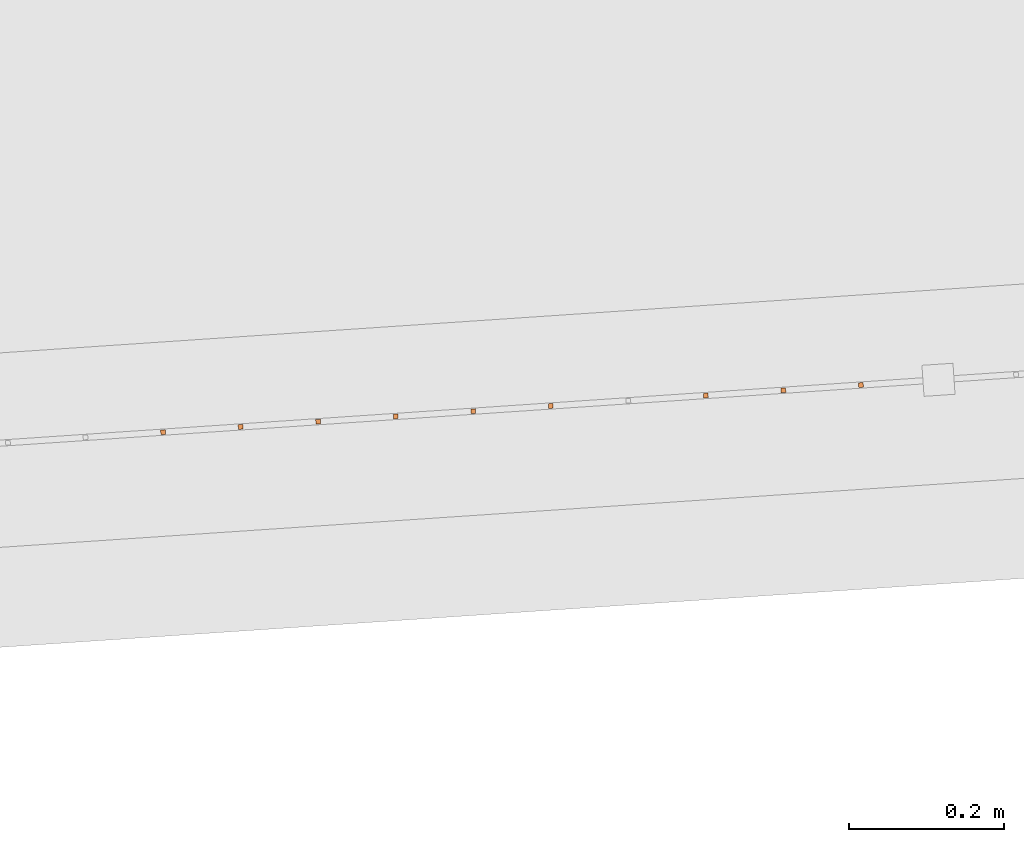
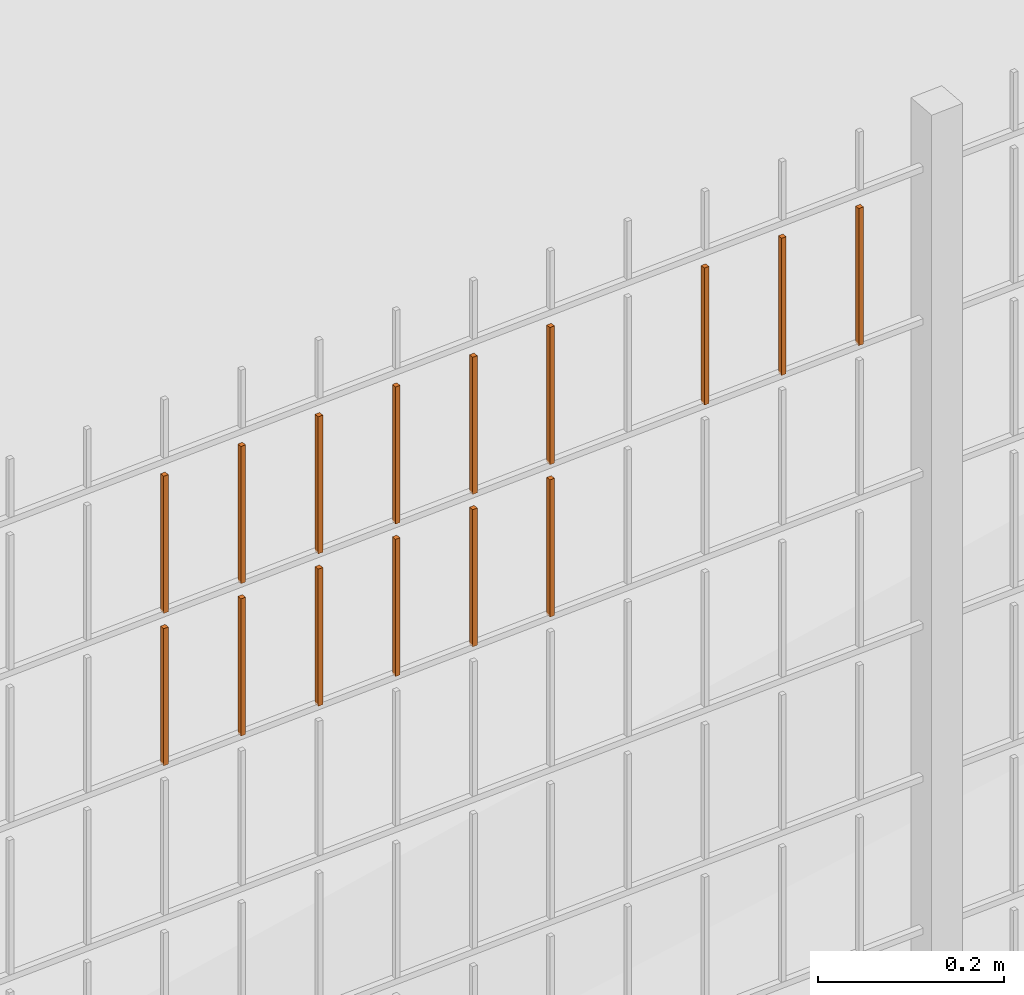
# One storey, part 96 of 1809: 15 proxies, 1 element without a shape of its own.
"""IFC2X3 building model written with IfcOpenShell, lengths in millimetres."""

from ifc_helpers import new_model, entity, si_unit, converted_unit, derived_unit, money_unit, direction, frame, origin_with_axes, place, context, subcontext, project, spatial, faceted_brep, source, transform, mapped, material, type_object, element, aggregate, save


model = new_model("IFC2X3")

# Units and contexts
model_context = context("Model", 3, precision=0.01, world=origin_with_axes(), true_north=direction((0.0, 1.0)))
body_context = subcontext(model_context, "Body", "Model", "MODEL_VIEW")
ifc_project = project(units=[si_unit("LENGTHUNIT", "METRE", prefix="MILLI"), si_unit("AREAUNIT", "SQUARE_METRE"), si_unit("VOLUMEUNIT", "CUBIC_METRE"), converted_unit("PLANEANGLEUNIT", "DEGREE", entity("IfcPlaneAngleMeasure", 0.0174532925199), si_unit("PLANEANGLEUNIT", "RADIAN"), dimensions=[0, 0, 0, 0, 0, 0, 0]), si_unit("SOLIDANGLEUNIT", "STERADIAN"), money_unit("EUR"), converted_unit("TIMEUNIT", "Year", entity("IfcTimeMeasure", 31556926.0), si_unit("TIMEUNIT", "SECOND"), dimensions=[0, 0, 1, 0, 0, 0, 0]), si_unit("MASSUNIT", "GRAM", prefix="KILO"), si_unit("THERMODYNAMICTEMPERATUREUNIT", "DEGREE_CELSIUS"), si_unit("LUMINOUSINTENSITYUNIT", "LUMEN"), si_unit("ENERGYUNIT", "JOULE", prefix="MEGA"), derived_unit("THERMALCONDUCTANCEUNIT", [(si_unit("POWERUNIT", "WATT"), 1), (si_unit("LENGTHUNIT", "METRE"), -1), (si_unit("THERMODYNAMICTEMPERATUREUNIT", "KELVIN"), -1)]), derived_unit("SPECIFICHEATCAPACITYUNIT", [(si_unit("ENERGYUNIT", "JOULE"), 1), (si_unit("MASSUNIT", "GRAM", prefix="KILO"), -1), (si_unit("THERMODYNAMICTEMPERATUREUNIT", "KELVIN"), -1)]), derived_unit("MASSDENSITYUNIT", [(si_unit("MASSUNIT", "GRAM", prefix="KILO"), 1), (si_unit("VOLUMEUNIT", "CUBIC_METRE"), -1)])], contexts=[model_context])

# Site, building, storey
site_placement = place(None, origin_with_axes())
site = spatial("IfcSite", under=ifc_project, at=site_placement, Name="Politse- ja Piirivalveameti ning Päästeameti ühishoone", CompositionType="ELEMENT")
building_placement = place(site_placement, origin_with_axes())
building = spatial("IfcBuilding", under=site, at=building_placement, Name="Politse- ja Piirivalveameti ning Päästeameti ühishoone", CompositionType="ELEMENT")
storey_placement = place(building_placement, origin_with_axes())
storey = spatial("IfcBuildingStorey", under=building, at=storey_placement, Name="Esimene korrus", CompositionType="ELEMENT", Elevation=0.0)

# Proxies
building_element_proxy_type_1 = type_object("IfcBuildingElementProxyType", Name="Railing Type", PredefinedType="NOTDEFINED")
proxy_1_placement = place(storey_placement, frame((89252.001212, -29183.4766571, 203.661247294), z_axis=(0.0, 0.0, 1.0), x_axis=(1.0, 0.0, 0.0)))
proxy_1 = element("IfcBuildingElementProxy", 1, at=proxy_1_placement, inside=storey, type_object=building_element_proxy_type_1, Name="PIIRDEAED")
ifc_material = material(Name="ET-03_Raud")
building_element_proxy_type_2 = type_object("IfcBuildingElementProxyType", Name="IfcBuildingElementProxy", PredefinedType="NOTDEFINED")
shared_shape_1 = source(origin_with_axes(), body_context, "Body", "Brep", [
    faceted_brep([(3.0, 3.0, -0.000752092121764), (-3.0, 3.0, -0.000752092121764), (-3.0, 3.0, 179.99926046), (3.0, 3.0, 179.99926046), (3.0, -3.0, 0.000752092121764), (-3.0, -3.0, 0.000752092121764), (-3.0, -3.0, 180.000764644), (3.0, -3.0, 180.000764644)], [[[0, 1, 2, 3]], [[0, 4, 5, 1]], [[1, 5, 6, 2]], [[3, 2, 6, 7]], [[4, 0, 3, 7]], [[5, 4, 7, 6]]]),
])
proxy_2_placement = place(proxy_1_placement, frame((-98103.1452171, -23924.2719931, 1602.58414305), z_axis=(0.0, 0.0, 1.0), x_axis=(1.0, 0.0, 0.0)))
proxy_2 = element("IfcBuildingElementProxy", 2, at=proxy_2_placement, type_object=building_element_proxy_type_2, material=ifc_material, Name="BALUSTER - 001", context=body_context, shape_type="MappedRepresentation", body=[
    mapped(shared_shape_1, transform((0.0, 0.0, 0.0), x_axis=(-0.0673926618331, 0.997726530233, 0.0), y_axis=(-0.997726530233, -0.0673926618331, 0.0), z_axis=(0.0, 0.0, 1.0))),
])
shared_shape_2 = source(origin_with_axes(), body_context, "Body", "Brep", [
    faceted_brep([(3.0, 3.0, -0.000752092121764), (-3.0, 3.0, -0.000752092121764), (-3.0, 3.0, 179.99926046), (3.0, 3.0, 179.99926046), (3.0, -3.0, 0.000752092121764), (-3.0, -3.0, 0.000752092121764), (-3.0, -3.0, 180.000764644), (3.0, -3.0, 180.000764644)], [[[0, 1, 2, 3]], [[0, 4, 5, 1]], [[1, 5, 6, 2]], [[3, 2, 6, 7]], [[4, 0, 3, 7]], [[5, 4, 7, 6]]]),
])
proxy_3_placement = place(proxy_1_placement, frame((-97604.281952, -23890.5756622, 1802.70949174), z_axis=(0.0, 0.0, 1.0), x_axis=(1.0, 0.0, 0.0)))
proxy_3 = element("IfcBuildingElementProxy", 3, at=proxy_3_placement, type_object=building_element_proxy_type_2, material=ifc_material, Name="BALUSTER - 001", context=body_context, shape_type="MappedRepresentation", body=[
    mapped(shared_shape_2, transform((0.0, 0.0, 0.0), x_axis=(-0.0673926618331, 0.997726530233, 0.0), y_axis=(-0.997726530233, -0.0673926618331, 0.0), z_axis=(0.0, 0.0, 1.0))),
])
proxy_4_placement = place(proxy_1_placement, frame((-98103.1452171, -23924.2719931, 1802.58414305), z_axis=(0.0, 0.0, 1.0), x_axis=(1.0, 0.0, 0.0)))
proxy_4 = element("IfcBuildingElementProxy", 4, at=proxy_4_placement, type_object=building_element_proxy_type_2, material=ifc_material, Name="BALUSTER - 001", context=body_context, shape_type="MappedRepresentation", body=[
    mapped(shared_shape_2, transform((0.0, 0.0, 0.0), x_axis=(-0.0673926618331, 0.997726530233, 0.0), y_axis=(-0.997726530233, -0.0673926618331, 0.0), z_axis=(0.0, 0.0, 1.0))),
])
shared_shape_3 = source(origin_with_axes(), body_context, "Body", "Brep", [
    faceted_brep([(3.0, 3.0, -0.000752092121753), (-3.0, 3.0, -0.000752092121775), (-3.0, 3.0, 179.99926046), (3.0, 3.0, 179.99926046), (3.0, -3.0, 0.000752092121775), (-3.0, -3.0, 0.000752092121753), (-3.0, -3.0, 180.000764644), (3.0, -3.0, 180.000764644)], [[[0, 1, 2, 3]], [[0, 4, 5, 1]], [[1, 5, 6, 2]], [[3, 2, 6, 7]], [[4, 0, 3, 7]], [[5, 4, 7, 6]]]),
])
proxy_5_placement = place(proxy_1_placement, frame((-97704.054605, -23897.3149284, 1802.684422), z_axis=(0.0, 0.0, 1.0), x_axis=(1.0, 0.0, 0.0)))
proxy_5 = element("IfcBuildingElementProxy", 5, at=proxy_5_placement, type_object=building_element_proxy_type_2, material=ifc_material, Name="BALUSTER - 001", context=body_context, shape_type="MappedRepresentation", body=[
    mapped(shared_shape_3, transform((0.0, 0.0, 0.0), x_axis=(-0.0673926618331, 0.997726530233, 0.0), y_axis=(-0.997726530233, -0.0673926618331, 0.0), z_axis=(0.0, 0.0, 1.0))),
])
shared_shape_4 = source(origin_with_axes(), body_context, "Body", "Brep", [
    faceted_brep([(3.0, 3.0, -0.000752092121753), (-3.0, 3.0, -0.000752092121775), (-3.0, 3.0, 179.99926046), (3.0, 3.0, 179.99926046), (3.0, -3.0, 0.000752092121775), (-3.0, -3.0, 0.000752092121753), (-3.0, -3.0, 180.000764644), (3.0, -3.0, 180.000764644)], [[[0, 1, 2, 3]], [[0, 4, 5, 1]], [[1, 5, 6, 2]], [[3, 2, 6, 7]], [[4, 0, 3, 7]], [[5, 4, 7, 6]]]),
])
proxy_6_placement = place(proxy_1_placement, frame((-97903.5999111, -23910.7934607, 1602.63428252), z_axis=(0.0, 0.0, 1.0), x_axis=(1.0, 0.0, 0.0)))
proxy_6 = element("IfcBuildingElementProxy", 6, at=proxy_6_placement, type_object=building_element_proxy_type_2, material=ifc_material, Name="BALUSTER - 001", context=body_context, shape_type="MappedRepresentation", body=[
    mapped(shared_shape_4, transform((0.0, 0.0, 0.0), x_axis=(-0.0673926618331, 0.997726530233, 0.0), y_axis=(-0.997726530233, -0.0673926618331, 0.0), z_axis=(0.0, 0.0, 1.0))),
])
shared_shape_5 = source(origin_with_axes(), body_context, "Body", "Brep", [
    faceted_brep([(3.0, 3.0, -0.000752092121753), (-3.0, 3.0, -0.000752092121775), (-3.0, 3.0, 179.99926046), (3.0, 3.0, 179.99926046), (3.0, -3.0, 0.000752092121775), (-3.0, -3.0, 0.000752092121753), (-3.0, -3.0, 180.000764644), (3.0, -3.0, 180.000764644)], [[[0, 1, 2, 3]], [[0, 4, 5, 1]], [[1, 5, 6, 2]], [[3, 2, 6, 7]], [[4, 0, 3, 7]], [[5, 4, 7, 6]]]),
])
proxy_7_placement = place(proxy_1_placement, frame((-97803.827258, -23904.0541946, 1602.65935226), z_axis=(0.0, 0.0, 1.0), x_axis=(1.0, 0.0, 0.0)))
proxy_7 = element("IfcBuildingElementProxy", 7, at=proxy_7_placement, type_object=building_element_proxy_type_2, material=ifc_material, Name="BALUSTER - 001", context=body_context, shape_type="MappedRepresentation", body=[
    mapped(shared_shape_5, transform((0.0, 0.0, 0.0), x_axis=(-0.0673926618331, 0.997726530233, 0.0), y_axis=(-0.997726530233, -0.0673926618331, 0.0), z_axis=(0.0, 0.0, 1.0))),
])
shared_shape_6 = source(origin_with_axes(), body_context, "Body", "Brep", [
    faceted_brep([(3.0, 3.0, -0.000752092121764), (-3.0, 3.0, -0.000752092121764), (-3.0, 3.0, 179.99926046), (3.0, 3.0, 179.99926046), (3.0, -3.0, 0.000752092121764), (-3.0, -3.0, 0.000752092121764), (-3.0, -3.0, 180.000764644), (3.0, -3.0, 180.000764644)], [[[0, 1, 2, 3]], [[0, 4, 5, 1]], [[1, 5, 6, 2]], [[3, 2, 6, 7]], [[4, 0, 3, 7]], [[5, 4, 7, 6]]]),
])
proxy_8_placement = place(proxy_1_placement, frame((-98003.3725641, -23917.5327269, 1602.60921279), z_axis=(0.0, 0.0, 1.0), x_axis=(1.0, 0.0, 0.0)))
proxy_8 = element("IfcBuildingElementProxy", 8, at=proxy_8_placement, type_object=building_element_proxy_type_2, material=ifc_material, Name="BALUSTER - 001", context=body_context, shape_type="MappedRepresentation", body=[
    mapped(shared_shape_6, transform((0.0, 0.0, 0.0), x_axis=(-0.0673926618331, 0.997726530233, 0.0), y_axis=(-0.997726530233, -0.0673926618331, 0.0), z_axis=(0.0, 0.0, 1.0))),
])
shared_shape_7 = source(origin_with_axes(), body_context, "Body", "Brep", [
    faceted_brep([(3.0, 3.0, -0.000752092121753), (-3.0, 3.0, -0.000752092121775), (-3.0, 3.0, 179.99926046), (3.0, 3.0, 179.99926046), (3.0, -3.0, 0.000752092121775), (-3.0, -3.0, 0.000752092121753), (-3.0, -3.0, 180.000764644), (3.0, -3.0, 180.000764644)], [[[0, 1, 2, 3]], [[0, 4, 5, 1]], [[1, 5, 6, 2]], [[3, 2, 6, 7]], [[4, 0, 3, 7]], [[5, 4, 7, 6]]]),
])
proxy_9_placement = place(proxy_1_placement, frame((-97903.5999111, -23910.7934607, 1802.63428252), z_axis=(0.0, 0.0, 1.0), x_axis=(1.0, 0.0, 0.0)))
proxy_9 = element("IfcBuildingElementProxy", 9, at=proxy_9_placement, type_object=building_element_proxy_type_2, material=ifc_material, Name="BALUSTER - 001", context=body_context, shape_type="MappedRepresentation", body=[
    mapped(shared_shape_7, transform((0.0, 0.0, 0.0), x_axis=(-0.0673926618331, 0.997726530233, 0.0), y_axis=(-0.997726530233, -0.0673926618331, 0.0), z_axis=(0.0, 0.0, 1.0))),
])
shared_shape_8 = source(origin_with_axes(), body_context, "Body", "Brep", [
    faceted_brep([(3.0, 3.0, -0.000752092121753), (-3.0, 3.0, -0.000752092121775), (-3.0, 3.0, 179.99926046), (3.0, 3.0, 179.99926046), (3.0, -3.0, 0.000752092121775), (-3.0, -3.0, 0.000752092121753), (-3.0, -3.0, 180.000764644), (3.0, -3.0, 180.000764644)], [[[0, 1, 2, 3]], [[0, 4, 5, 1]], [[1, 5, 6, 2]], [[3, 2, 6, 7]], [[4, 0, 3, 7]], [[5, 4, 7, 6]]]),
])
proxy_10_placement = place(proxy_1_placement, frame((-97304.9639929, -23870.3578636, 1802.78470095), z_axis=(0.0, 0.0, 1.0), x_axis=(1.0, 0.0, 0.0)))
proxy_10 = element("IfcBuildingElementProxy", 10, at=proxy_10_placement, type_object=building_element_proxy_type_2, material=ifc_material, Name="BALUSTER - 001", context=body_context, shape_type="MappedRepresentation", body=[
    mapped(shared_shape_8, transform((0.0, 0.0, 0.0), x_axis=(-0.0673926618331, 0.997726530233, 0.0), y_axis=(-0.997726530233, -0.0673926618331, 0.0), z_axis=(0.0, 0.0, 1.0))),
])
proxy_11_placement = place(proxy_1_placement, frame((-97803.827258, -23904.0541946, 1802.65935226), z_axis=(0.0, 0.0, 1.0), x_axis=(1.0, 0.0, 0.0)))
proxy_11 = element("IfcBuildingElementProxy", 11, at=proxy_11_placement, type_object=building_element_proxy_type_2, material=ifc_material, Name="BALUSTER - 001", context=body_context, shape_type="MappedRepresentation", body=[
    mapped(shared_shape_8, transform((0.0, 0.0, 0.0), x_axis=(-0.0673926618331, 0.997726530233, 0.0), y_axis=(-0.997726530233, -0.0673926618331, 0.0), z_axis=(0.0, 0.0, 1.0))),
])
shared_shape_9 = source(origin_with_axes(), body_context, "Body", "Brep", [
    faceted_brep([(3.0, 3.0, -0.000752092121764), (-3.0, 3.0, -0.000752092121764), (-3.0, 3.0, 179.99926046), (3.0, 3.0, 179.99926046), (3.0, -3.0, 0.000752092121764), (-3.0, -3.0, 0.000752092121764), (-3.0, -3.0, 180.000764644), (3.0, -3.0, 180.000764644)], [[[0, 1, 2, 3]], [[0, 4, 5, 1]], [[1, 5, 6, 2]], [[3, 2, 6, 7]], [[4, 0, 3, 7]], [[5, 4, 7, 6]]]),
])
proxy_12_placement = place(proxy_1_placement, frame((-97404.7366459, -23877.0971298, 1802.75963121), z_axis=(0.0, 0.0, 1.0), x_axis=(1.0, 0.0, 0.0)))
proxy_12 = element("IfcBuildingElementProxy", 12, at=proxy_12_placement, type_object=building_element_proxy_type_2, material=ifc_material, Name="BALUSTER - 001", context=body_context, shape_type="MappedRepresentation", body=[
    mapped(shared_shape_9, transform((0.0, 0.0, 0.0), x_axis=(-0.0673926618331, 0.997726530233, 0.0), y_axis=(-0.997726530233, -0.0673926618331, 0.0), z_axis=(0.0, 0.0, 1.0))),
])
proxy_13_placement = place(proxy_1_placement, frame((-98003.3725641, -23917.5327269, 1802.60921279), z_axis=(0.0, 0.0, 1.0), x_axis=(1.0, 0.0, 0.0)))
proxy_13 = element("IfcBuildingElementProxy", 13, at=proxy_13_placement, type_object=building_element_proxy_type_2, material=ifc_material, Name="BALUSTER - 001", context=body_context, shape_type="MappedRepresentation", body=[
    mapped(shared_shape_9, transform((0.0, 0.0, 0.0), x_axis=(-0.0673926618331, 0.997726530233, 0.0), y_axis=(-0.997726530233, -0.0673926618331, 0.0), z_axis=(0.0, 0.0, 1.0))),
])
shared_shape_10 = source(origin_with_axes(), body_context, "Body", "Brep", [
    faceted_brep([(3.0, 3.0, -0.000752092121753), (-3.0, 3.0, -0.000752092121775), (-3.0, 3.0, 179.99926046), (3.0, 3.0, 179.99926046), (3.0, -3.0, 0.000752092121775), (-3.0, -3.0, 0.000752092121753), (-3.0, -3.0, 180.000764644), (3.0, -3.0, 180.000764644)], [[[0, 1, 2, 3]], [[0, 4, 5, 1]], [[1, 5, 6, 2]], [[3, 2, 6, 7]], [[4, 0, 3, 7]], [[5, 4, 7, 6]]]),
])
proxy_14_placement = place(proxy_1_placement, frame((-97704.054605, -23897.3149284, 1602.684422), z_axis=(0.0, 0.0, 1.0), x_axis=(1.0, 0.0, 0.0)))
proxy_14 = element("IfcBuildingElementProxy", 14, at=proxy_14_placement, type_object=building_element_proxy_type_2, material=ifc_material, Name="BALUSTER - 001", context=body_context, shape_type="MappedRepresentation", body=[
    mapped(shared_shape_10, transform((0.0, 0.0, 0.0), x_axis=(-0.0673926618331, 0.997726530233, 0.0), y_axis=(-0.997726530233, -0.0673926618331, 0.0), z_axis=(0.0, 0.0, 1.0))),
])
shared_shape_11 = source(origin_with_axes(), body_context, "Body", "Brep", [
    faceted_brep([(3.0, 3.0, -0.000752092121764), (-3.0, 3.0, -0.000752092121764), (-3.0, 3.0, 179.99926046), (3.0, 3.0, 179.99926046), (3.0, -3.0, 0.000752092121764), (-3.0, -3.0, 0.000752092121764), (-3.0, -3.0, 180.000764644), (3.0, -3.0, 180.000764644)], [[[0, 1, 2, 3]], [[0, 4, 5, 1]], [[1, 5, 6, 2]], [[3, 2, 6, 7]], [[4, 0, 3, 7]], [[5, 4, 7, 6]]]),
])
proxy_15_placement = place(proxy_1_placement, frame((-97604.281952, -23890.5756622, 1602.70949174), z_axis=(0.0, 0.0, 1.0), x_axis=(1.0, 0.0, 0.0)))
proxy_15 = element("IfcBuildingElementProxy", 15, at=proxy_15_placement, type_object=building_element_proxy_type_2, material=ifc_material, Name="BALUSTER - 001", context=body_context, shape_type="MappedRepresentation", body=[
    mapped(shared_shape_11, transform((0.0, 0.0, 0.0), x_axis=(-0.0673926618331, 0.997726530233, 0.0), y_axis=(-0.997726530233, -0.0673926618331, 0.0), z_axis=(0.0, 0.0, 1.0))),
])
shared_shape_12 = source(origin_with_axes(), body_context, "Body", "Brep", [
    faceted_brep([(3.0, 3.0, -0.000752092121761), (-3.0, 3.0, -0.000752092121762), (-3.0, 3.0, 179.99926046), (3.0, 3.0, 179.99926046), (3.0, -3.0, 0.000752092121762), (-3.0, -3.0, 0.000752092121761), (-3.0, -3.0, 180.000764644), (3.0, -3.0, 180.000764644)], [[[0, 1, 2, 3]], [[0, 4, 5, 1]], [[1, 5, 6, 2]], [[3, 2, 6, 7]], [[4, 0, 3, 7]], [[5, 4, 7, 6]]]),
])
proxy_16_placement = place(proxy_1_placement, frame((-97205.1913399, -23863.6185975, 1802.80977069), z_axis=(0.0, 0.0, 1.0), x_axis=(1.0, 0.0, 0.0)))
proxy_16 = element("IfcBuildingElementProxy", 16, at=proxy_16_placement, type_object=building_element_proxy_type_2, material=ifc_material, Name="BALUSTER - 001", context=body_context, shape_type="MappedRepresentation", body=[
    mapped(shared_shape_12, transform((0.0, 0.0, 0.0), x_axis=(-0.0673926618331, 0.997726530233, 0.0), y_axis=(-0.997726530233, -0.0673926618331, 0.0), z_axis=(0.0, 0.0, 1.0))),
])
aggregate(proxy_1, [proxy_15, proxy_14, proxy_7, proxy_6, proxy_8, proxy_2, proxy_16, proxy_10, proxy_12, proxy_3, proxy_5, proxy_11, proxy_9, proxy_13, proxy_4])

save(model, "model.ifc")
